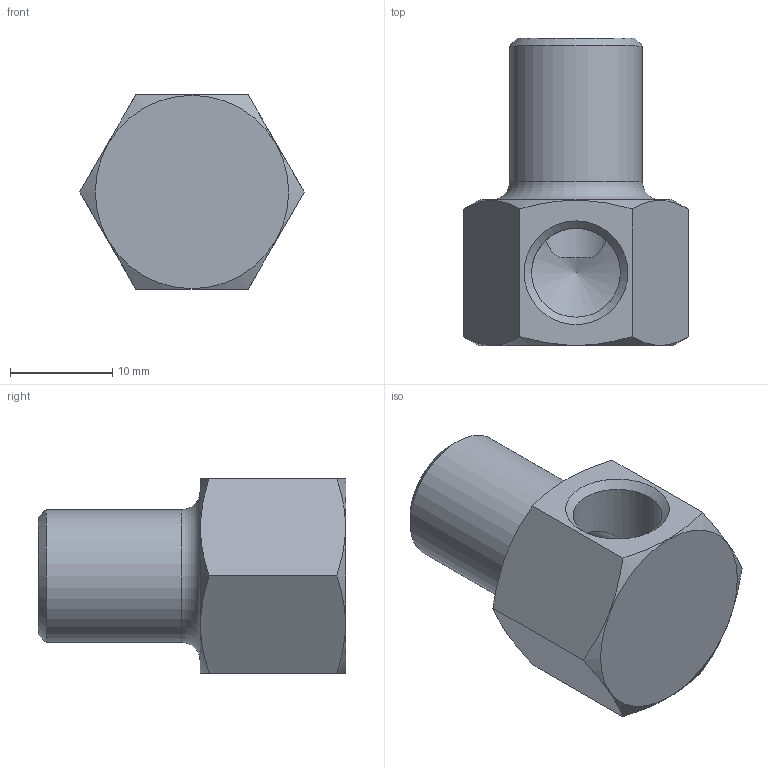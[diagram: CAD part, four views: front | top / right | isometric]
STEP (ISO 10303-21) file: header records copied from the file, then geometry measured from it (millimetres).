
FILE_DESCRIPTION(/* description */ (''),/* implementation_level */ '2;1');
FILE_NAME(/* name */ 'C:/Users/drich/Desktop/M1814S-M1814SB v1.step',/* time_stamp */ '2019-12-27T18:06:36-06:00',/* author */ (''),/* organization */ (''),/* preprocessor_version */ 'ST-DEVELOPER v18',/* originating_system */ 'Autodesk Translation Framework v8.12.0.6',/* authorisation */ '');
FILE_SCHEMA (('AUTOMOTIVE_DESIGN { 1 0 10303 214 3 1 1 }'));
Length unit declared in the file: inch
Products named in the file (1): M1814S-M1814SB
Bounding box: 22 x 30.15 x 19.05 mm (x, y, z)
Volume: 4647.6 mm3; surface area: 2897.2 mm2
Topology: 1 solids, 1 shells, 22 faces, 57 edges, 37 vertices
Faces by surface type: plane 9, cone 8, cylinder 4, torus 1
Full cylindrical faces by diameter (mm): 8.707 x1, 8.712 x1, 13.032 x1
Entity records: 801 total; most frequent: CARTESIAN_POINT 256, ORIENTED_EDGE 112, DIRECTION 100, EDGE_CURVE 56, AXIS2_PLACEMENT_3D 42, VERTEX_POINT 37, EDGE_LOOP 25, FACE_OUTER_BOUND 22
